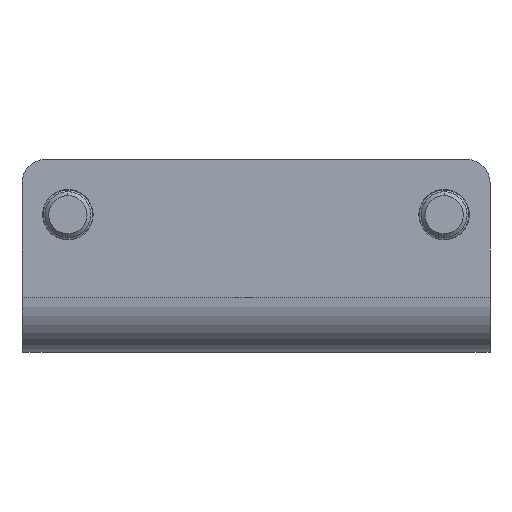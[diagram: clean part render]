
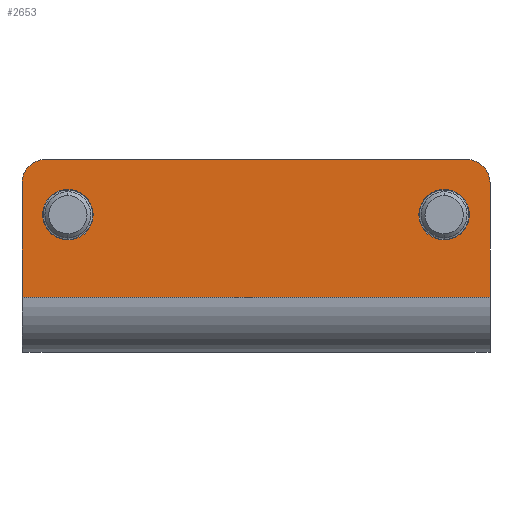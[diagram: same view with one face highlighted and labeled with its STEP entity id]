
A CAD part, front view. The second image highlights one B-rep face of the part: STEP entity #2653.
In plain terms, the highlighted planar face has unit normal (0, -1, 0).
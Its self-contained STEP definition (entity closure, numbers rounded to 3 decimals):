
#60 = AXIS2_PLACEMENT_3D ( 'NONE', #5926, #3114, #6768 ) ;
#189 = VERTEX_POINT ( 'NONE', #7020 ) ;
#200 = CARTESIAN_POINT ( 'NONE',  ( -51., -8., -8. ) ) ;
#327 = VERTEX_POINT ( 'NONE', #480 ) ;
#480 = CARTESIAN_POINT ( 'NONE',  ( -41., -8., 27.5 ) ) ;
#535 = VERTEX_POINT ( 'NONE', #5320 ) ;
#588 = LINE ( 'NONE', #9637, #8768 ) ;
#725 = VERTEX_POINT ( 'NONE', #1829 ) ;
#776 = EDGE_LOOP ( 'NONE', ( #1216, #6098 ) ) ;
#802 = VERTEX_POINT ( 'NONE', #1158 ) ;
#1004 = EDGE_CURVE ( 'NONE', #4548, #189, #6461, .T. ) ;
#1016 = EDGE_CURVE ( 'NONE', #4472, #1965, #4495, .T. ) ;
#1116 = EDGE_LOOP ( 'NONE', ( #2801, #2346, #1550, #2185, #4017, #9124 ) ) ;
#1158 = CARTESIAN_POINT ( 'NONE',  ( 46., -8., 34. ) ) ;
#1216 = ORIENTED_EDGE ( 'NONE', *, *, #1016, .T. ) ;
#1249 = EDGE_LOOP ( 'NONE', ( #3351, #1600 ) ) ;
#1255 = AXIS2_PLACEMENT_3D ( 'NONE', #7682, #8550, #6926 ) ;
#1342 = AXIS2_PLACEMENT_3D ( 'NONE', #5728, #4267, #7908 ) ;
#1390 = FACE_BOUND ( 'NONE', #776, .T. ) ;
#1550 = ORIENTED_EDGE ( 'NONE', *, *, #1004, .T. ) ;
#1600 = ORIENTED_EDGE ( 'NONE', *, *, #2847, .T. ) ;
#1829 = CARTESIAN_POINT ( 'NONE',  ( -41., -8., 16.5 ) ) ;
#1842 = VECTOR ( 'NONE', #6624, 1000. ) ;
#1870 = FACE_OUTER_BOUND ( 'NONE', #1116, .T. ) ;
#1962 = EDGE_CURVE ( 'NONE', #327, #725, #7967, .T. ) ;
#1965 = VERTEX_POINT ( 'NONE', #2991 ) ;
#1973 = EDGE_CURVE ( 'NONE', #535, #7383, #9491, .T. ) ;
#2082 = CARTESIAN_POINT ( 'NONE',  ( -46., -8., 34. ) ) ;
#2185 = ORIENTED_EDGE ( 'NONE', *, *, #6117, .T. ) ;
#2260 = EDGE_CURVE ( 'NONE', #802, #2685, #588, .T. ) ;
#2324 = CARTESIAN_POINT ( 'NONE',  ( -51., -8., -8. ) ) ;
#2346 = ORIENTED_EDGE ( 'NONE', *, *, #3654, .T. ) ;
#2457 = DIRECTION ( 'NONE',  ( 0., -1., 0. ) ) ;
#2653 = ADVANCED_FACE ( 'NONE', ( #1870, #8030, #1390 ), #6438, .T. ) ;
#2685 = VERTEX_POINT ( 'NONE', #2082 ) ;
#2801 = ORIENTED_EDGE ( 'NONE', *, *, #1973, .T. ) ;
#2847 = EDGE_CURVE ( 'NONE', #725, #327, #5699, .T. ) ;
#2991 = CARTESIAN_POINT ( 'NONE',  ( 41., -8., 16.5 ) ) ;
#3114 = DIRECTION ( 'NONE',  ( 0., 1., 0. ) ) ;
#3320 = DIRECTION ( 'NONE',  ( 0., -1., 0. ) ) ;
#3351 = ORIENTED_EDGE ( 'NONE', *, *, #1962, .T. ) ;
#3654 = EDGE_CURVE ( 'NONE', #7383, #4548, #9294, .T. ) ;
#3672 = CARTESIAN_POINT ( 'NONE',  ( 51., -8., -8. ) ) ;
#3938 = AXIS2_PLACEMENT_3D ( 'NONE', #200, #3320, #9197 ) ;
#4017 = ORIENTED_EDGE ( 'NONE', *, *, #2260, .T. ) ;
#4267 = DIRECTION ( 'NONE',  ( 0., 1., 0. ) ) ;
#4472 = VERTEX_POINT ( 'NONE', #8764 ) ;
#4495 = CIRCLE ( 'NONE', #7322, 5.5 ) ;
#4548 = VERTEX_POINT ( 'NONE', #9571 ) ;
#4634 = DIRECTION ( 'NONE',  ( 0., 0., -1. ) ) ;
#4678 = DIRECTION ( 'NONE',  ( 0., 0., 1. ) ) ;
#5095 = DIRECTION ( 'NONE',  ( 1., 0., 0. ) ) ;
#5243 = AXIS2_PLACEMENT_3D ( 'NONE', #5394, #9163, #4678 ) ;
#5316 = VECTOR ( 'NONE', #5095, 1000. ) ;
#5320 = CARTESIAN_POINT ( 'NONE',  ( -51., -8., 29. ) ) ;
#5394 = CARTESIAN_POINT ( 'NONE',  ( 46., -8., 29. ) ) ;
#5496 = EDGE_CURVE ( 'NONE', #2685, #535, #7940, .T. ) ;
#5500 = VECTOR ( 'NONE', #6662, 1000. ) ;
#5699 = CIRCLE ( 'NONE', #1255, 5.5 ) ;
#5728 = CARTESIAN_POINT ( 'NONE',  ( 41., -8., 22. ) ) ;
#5918 = CARTESIAN_POINT ( 'NONE',  ( -51., -8., 4. ) ) ;
#5926 = CARTESIAN_POINT ( 'NONE',  ( -41., -8., 22. ) ) ;
#5973 = CIRCLE ( 'NONE', #1342, 5.5 ) ;
#6098 = ORIENTED_EDGE ( 'NONE', *, *, #6241, .T. ) ;
#6117 = EDGE_CURVE ( 'NONE', #189, #802, #6782, .T. ) ;
#6241 = EDGE_CURVE ( 'NONE', #1965, #4472, #5973, .T. ) ;
#6438 = PLANE ( 'NONE',  #3938 ) ;
#6461 = LINE ( 'NONE', #3672, #1842 ) ;
#6624 = DIRECTION ( 'NONE',  ( 0., 0., 1. ) ) ;
#6662 = DIRECTION ( 'NONE',  ( 0., 0., -1. ) ) ;
#6768 = DIRECTION ( 'NONE',  ( 0., 0., 1. ) ) ;
#6782 = CIRCLE ( 'NONE', #5243, 5. ) ;
#6926 = DIRECTION ( 'NONE',  ( 0., 0., 1. ) ) ;
#7020 = CARTESIAN_POINT ( 'NONE',  ( 51., -8., 29. ) ) ;
#7322 = AXIS2_PLACEMENT_3D ( 'NONE', #8234, #8984, #8359 ) ;
#7353 = DIRECTION ( 'NONE',  ( -1., 0., 0. ) ) ;
#7383 = VERTEX_POINT ( 'NONE', #5918 ) ;
#7682 = CARTESIAN_POINT ( 'NONE',  ( -41., -8., 22. ) ) ;
#7908 = DIRECTION ( 'NONE',  ( 0., 0., 1. ) ) ;
#7940 = CIRCLE ( 'NONE', #8171, 5. ) ;
#7967 = CIRCLE ( 'NONE', #60, 5.5 ) ;
#8030 = FACE_BOUND ( 'NONE', #1249, .T. ) ;
#8110 = CARTESIAN_POINT ( 'NONE',  ( -51., -8., 4. ) ) ;
#8171 = AXIS2_PLACEMENT_3D ( 'NONE', #8434, #2457, #4634 ) ;
#8234 = CARTESIAN_POINT ( 'NONE',  ( 41., -8., 22. ) ) ;
#8359 = DIRECTION ( 'NONE',  ( 0., 0., 1. ) ) ;
#8434 = CARTESIAN_POINT ( 'NONE',  ( -46., -8., 29. ) ) ;
#8550 = DIRECTION ( 'NONE',  ( 0., 1., 0. ) ) ;
#8764 = CARTESIAN_POINT ( 'NONE',  ( 41., -8., 27.5 ) ) ;
#8768 = VECTOR ( 'NONE', #7353, 1000. ) ;
#8984 = DIRECTION ( 'NONE',  ( 0., 1., 0. ) ) ;
#9124 = ORIENTED_EDGE ( 'NONE', *, *, #5496, .T. ) ;
#9163 = DIRECTION ( 'NONE',  ( 0., -1., 0. ) ) ;
#9197 = DIRECTION ( 'NONE',  ( 0., 0., -1. ) ) ;
#9294 = LINE ( 'NONE', #8110, #5316 ) ;
#9491 = LINE ( 'NONE', #2324, #5500 ) ;
#9571 = CARTESIAN_POINT ( 'NONE',  ( 51., -8., 4. ) ) ;
#9637 = CARTESIAN_POINT ( 'NONE',  ( -51., -8., 34. ) ) ;
